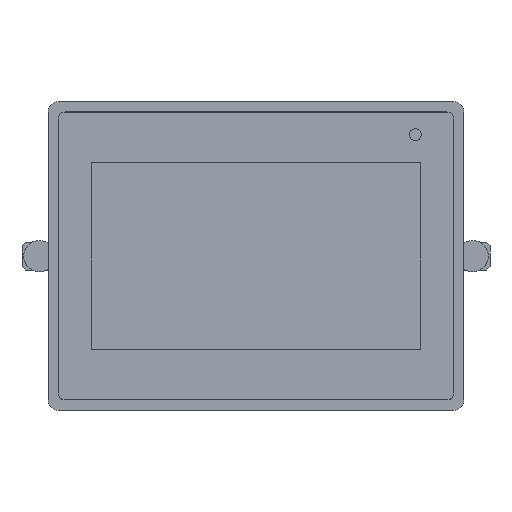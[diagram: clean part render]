
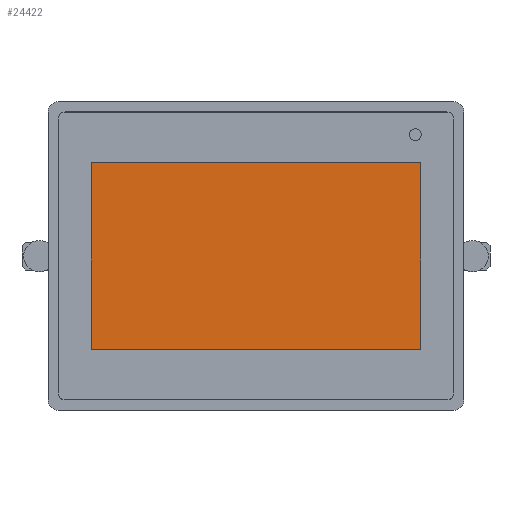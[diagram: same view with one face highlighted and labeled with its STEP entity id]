
A CAD part, top view. The second image highlights one B-rep face of the part: STEP entity #24422.
In plain terms, the highlighted planar face has unit normal (0, 0, 1).
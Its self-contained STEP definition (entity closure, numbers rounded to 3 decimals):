
#341 = CARTESIAN_POINT ( 'NONE',  ( 47.52, 26.928, -0.4 ) ) ;
#1009 = CARTESIAN_POINT ( 'NONE',  ( -47.52, -26.928, -0.4 ) ) ;
#1130 = CARTESIAN_POINT ( 'NONE',  ( -47.52, -26.928, -0.4 ) ) ;
#1793 = LINE ( 'NONE', #1965, #13033 ) ;
#1965 = CARTESIAN_POINT ( 'NONE',  ( -47.52, -26.928, -0.4 ) ) ;
#2623 = VERTEX_POINT ( 'NONE', #25352 ) ;
#3989 = EDGE_CURVE ( 'NONE', #14545, #14592, #31989, .T. ) ;
#4089 = VECTOR ( 'NONE', #29980, 1000. ) ;
#4824 = EDGE_LOOP ( 'NONE', ( #22062, #28233, #10596, #16367 ) ) ;
#6317 = VECTOR ( 'NONE', #8814, 1000. ) ;
#6455 = EDGE_CURVE ( 'NONE', #2623, #14545, #13815, .T. ) ;
#7991 = AXIS2_PLACEMENT_3D ( 'NONE', #1009, #11029, #19340 ) ;
#8814 = DIRECTION ( 'NONE',  ( -1., 0., 0. ) ) ;
#9977 = DIRECTION ( 'NONE',  ( 0., -1., 0. ) ) ;
#10596 = ORIENTED_EDGE ( 'NONE', *, *, #3989, .T. ) ;
#11029 = DIRECTION ( 'NONE',  ( 0., 0., 1. ) ) ;
#13033 = VECTOR ( 'NONE', #9977, 1000. ) ;
#13815 = LINE ( 'NONE', #1130, #18271 ) ;
#14146 = CARTESIAN_POINT ( 'NONE',  ( -47.52, 26.928, -0.4 ) ) ;
#14545 = VERTEX_POINT ( 'NONE', #17366 ) ;
#14592 = VERTEX_POINT ( 'NONE', #341 ) ;
#16367 = ORIENTED_EDGE ( 'NONE', *, *, #22449, .T. ) ;
#16670 = FACE_OUTER_BOUND ( 'NONE', #4824, .T. ) ;
#16776 = EDGE_CURVE ( 'NONE', #24030, #2623, #1793, .T. ) ;
#17366 = CARTESIAN_POINT ( 'NONE',  ( 47.52, -26.928, -0.4 ) ) ;
#18271 = VECTOR ( 'NONE', #18978, 1000. ) ;
#18978 = DIRECTION ( 'NONE',  ( 1., 0., 0. ) ) ;
#19340 = DIRECTION ( 'NONE',  ( 1., 0., 0. ) ) ;
#22039 = CARTESIAN_POINT ( 'NONE',  ( -47.52, 26.928, -0.4 ) ) ;
#22062 = ORIENTED_EDGE ( 'NONE', *, *, #16776, .T. ) ;
#22449 = EDGE_CURVE ( 'NONE', #14592, #24030, #26680, .T. ) ;
#24030 = VERTEX_POINT ( 'NONE', #22039 ) ;
#24422 = ADVANCED_FACE ( 'NONE', ( #16670 ), #29502, .T. ) ;
#25352 = CARTESIAN_POINT ( 'NONE',  ( -47.52, -26.928, -0.4 ) ) ;
#26680 = LINE ( 'NONE', #14146, #6317 ) ;
#26837 = CARTESIAN_POINT ( 'NONE',  ( 47.52, -26.928, -0.4 ) ) ;
#28233 = ORIENTED_EDGE ( 'NONE', *, *, #6455, .T. ) ;
#29502 = PLANE ( 'NONE',  #7991 ) ;
#29980 = DIRECTION ( 'NONE',  ( 0., 1., 0. ) ) ;
#31989 = LINE ( 'NONE', #26837, #4089 ) ;
